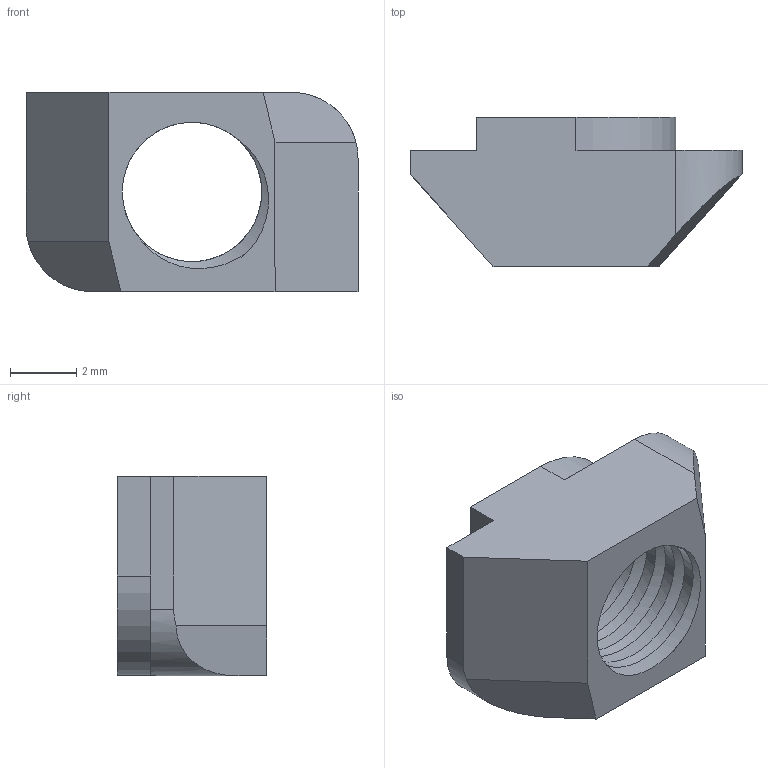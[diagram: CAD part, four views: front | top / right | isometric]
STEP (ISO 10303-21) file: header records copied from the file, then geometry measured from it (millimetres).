
FILE_DESCRIPTION (( 'STEP AP203' ), '1' );
FILE_NAME ('117-CE-TN-20.STEP', '2015-07-09T08:48:17', ( '' ), ( '' ), 'SwSTEP 2.0', 'SolidWorks 2013', '' );
FILE_SCHEMA (( 'CONFIG_CONTROL_DESIGN' ));
Length unit declared in the file: millimetre
Products named in the file (1): 117-CE-TN-20
Bounding box: 10 x 4.5 x 6 mm (x, y, z)
Volume: 128.4 mm3; surface area: 280.8 mm2
Topology: 1 solids, 1 shells, 33 faces, 93 edges, 62 vertices
Faces by surface type: cylinder 17, plane 14, bspline 2
Entity records: 2723 total; most frequent: CARTESIAN_POINT 1881, ORIENTED_EDGE 186, DIRECTION 132, EDGE_CURVE 93, VERTEX_POINT 62, VECTOR 50, LINE 50, AXIS2_PLACEMENT_3D 41
